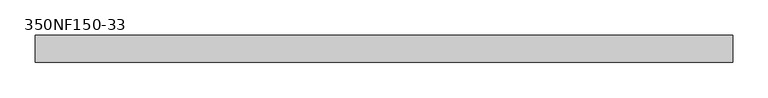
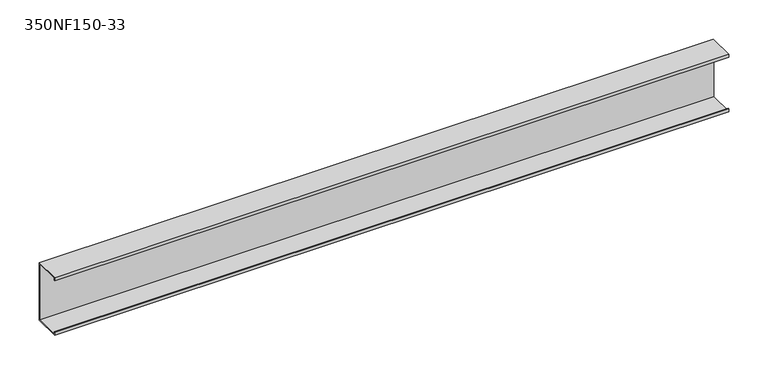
"""IFC4 building model written with IfcOpenShell, lengths in millimetres: beam geometry, BIMSF-SSMA-S : 350NF150-33."""

from ifc_helpers import new_model, si_unit, frame, origin, place, context, project, spatial, polyline, outline, extrude, source, transform, mapped, element, save


def beam_350nf150_33_87fa722b(model_context):
    return source(origin(), model_context, "Body", "SweptSolid", [
        extrude(outline(polyline([(19.05, 44.45), (19.05, -44.45), (-19.05, -44.45), (-19.05, -39.6748), (-18.1676842, -39.6748), (-18.1676842, -43.5676842), (18.1676842, -43.5676842), (18.1676842, 43.5676842), (-18.1676842, 43.5676842), (-18.1676842, 39.6748), (-19.05, 39.6748), (-19.05, 44.45), (19.05, 44.45)])), frame((-493.0292374, 0.0, 0.0), z_axis=(1.0, 0.0, 0.0), x_axis=(0.0, 1.0, 0.0)), (0.0, 0.0, 1.0), 986.0584747),
    ])


if __name__ == "__main__":
    model = new_model("IFC4")
    model_context = context("Model", 3, world=origin())
    ifc_project = project(units=[si_unit("LENGTHUNIT", "METRE", prefix="MILLI")], contexts=[model_context])
    site = spatial("IfcSite", under=ifc_project)
    building = spatial("IfcBuilding", under=site)
    placement = place(None, origin())
    beam_350nf150_33_shape = beam_350nf150_33_87fa722b(model_context)
    element("IfcBeam", 1, ObjectType="BIMSF-SSMA-S : 350NF150-33", at=placement, inside=building, context=model_context, shape_type="MappedRepresentation", body=[
        mapped(beam_350nf150_33_shape, transform((0.0, 0.0, 0.0), x_axis=(1.0, 0.0, 0.0), y_axis=(0.0, 1.0, 0.0), z_axis=(0.0, 0.0, 1.0))),
    ])
    save(model, "model.ifc")
